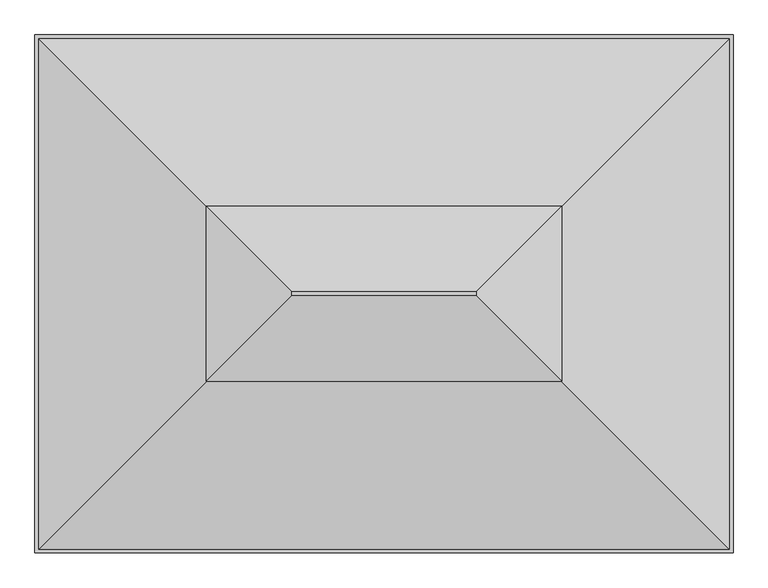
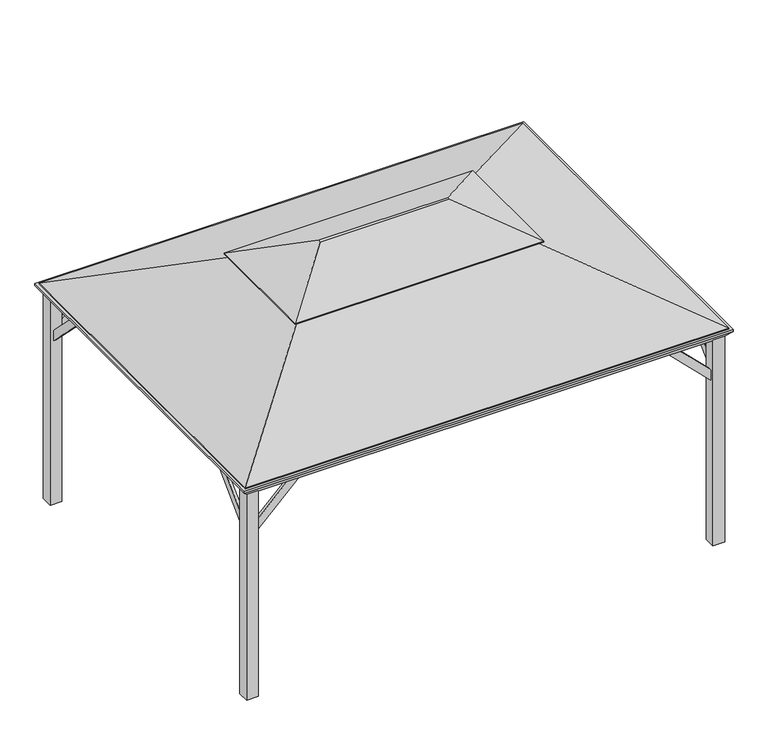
"""IFC4 building model written with IfcOpenShell, lengths in millimetres: proxy geometry."""

from ifc_helpers import new_model, si_unit, frame, origin, place, context, project, spatial, polyline, outline, extrude, faceted_brep, source, transform, mapped, element, save


def generic_models_1c49636c(model_context):
    return source(origin(), model_context, "Body", "SolidModel", [
        extrude(outline(polyline([(1670.2369265, -2197.1), (2082.8, -1784.5369265), (2082.8, -1892.3), (1778.0, -2197.1), (1670.2369265, -2197.1)])), frame((0.0, -1670.05, 0.0), z_axis=(0.0, 1.0, 0.0), x_axis=(0.0, 0.0, 1.0)), (0.0, 0.0, 1.0), 25.4),
        extrude(outline(polyline([(1670.2369265, 2197.1), (1778.0, 2197.1), (2082.8, 1892.3), (2082.8, 1784.5369265), (1670.2369265, 2197.1)])), frame((0.0, -1670.05, 0.0), z_axis=(0.0, 1.0, 0.0), x_axis=(0.0, 0.0, 1.0)), (0.0, 0.0, 1.0), 25.4),
        extrude(outline(polyline([(1670.2369265, -2197.1), (2082.8, -1784.5369265), (2082.8, -1892.3), (1778.0, -2197.1), (1670.2369265, -2197.1)])), frame((0.0, 1644.65, 0.0), z_axis=(0.0, 1.0, 0.0), x_axis=(0.0, 0.0, 1.0)), (0.0, 0.0, 1.0), 25.4),
        extrude(outline(polyline([(1670.2369265, 2197.1), (1778.0, 2197.1), (2082.8, 1892.3), (2082.8, 1784.5369265), (1670.2369265, 2197.1)])), frame((0.0, 1644.65, 0.0), z_axis=(0.0, 1.0, 0.0), x_axis=(0.0, 0.0, 1.0)), (0.0, 0.0, 1.0), 25.4),
        extrude(outline(polyline([(1587.5, 1670.2369265), (1174.9369265, 2082.8), (1282.7, 2082.8), (1587.5, 1778.0), (1587.5, 1670.2369265)])), frame((2254.25, 0.0, 0.0), z_axis=(1.0, 0.0, 0.0), x_axis=(0.0, 1.0, 0.0)), (0.0, 0.0, 1.0), 25.4),
        extrude(outline(polyline([(-1587.5, 1670.2369265), (-1587.5, 1778.0), (-1282.7, 2082.8), (-1174.9369265, 2082.8), (-1587.5, 1670.2369265)])), frame((2254.25, 0.0, 0.0), z_axis=(1.0, 0.0, 0.0), x_axis=(0.0, 1.0, 0.0)), (0.0, 0.0, 1.0), 25.4),
        extrude(outline(polyline([(1587.5, 1670.2369265), (1174.9369265, 2082.8), (1282.7, 2082.8), (1587.5, 1778.0), (1587.5, 1670.2369265)])), frame((-2279.65, 0.0, 0.0), z_axis=(1.0, 0.0, 0.0), x_axis=(0.0, 1.0, 0.0)), (0.0, 0.0, 1.0), 25.4),
        extrude(outline(polyline([(-1587.5, 1670.2369265), (-1587.5, 1778.0), (-1282.7, 2082.8), (-1174.9369265, 2082.8), (-1587.5, 1670.2369265)])), frame((-2279.65, 0.0, 0.0), z_axis=(1.0, 0.0, 0.0), x_axis=(0.0, 1.0, 0.0)), (0.0, 0.0, 1.0), 25.4),
        faceted_brep([(2362.2, -1752.6, 2184.4), (2362.2, 1752.6, 2184.4), (-2362.2, 1752.6, 2184.4), (-2362.2, -1752.6, 2184.4), (2197.1, 1587.5, 2184.4), (2254.25, 1587.5, 2184.4), (2254.25, -1587.5, 2184.4), (2197.1, -1587.5, 2184.4), (2197.1, -1644.65, 2184.4), (-2197.1, -1644.65, 2184.4), (-2197.1, -1587.5, 2184.4), (-2254.25, -1587.5, 2184.4), (-2254.25, 1587.5, 2184.4), (-2197.1, 1587.5, 2184.4), (-2197.1, 1644.65, 2184.4), (2197.1, 1644.65, 2184.4), (2197.1, 1587.5, 0.0), (2197.1, 1701.8, 0.0), (2311.4, 1701.8, 0.0), (2311.4, 1587.5, 0.0), (2311.4, 1587.5, 2105.3136364), (2292.35, 1587.5, 2082.8), (2254.25, 1587.5, 2082.8), (2311.4, 1701.8, 2105.3136364), (2197.1, 1701.8, 2105.3136364), (2197.1, 1644.65, 2082.8), (2197.1, 1682.75, 2082.8), (2292.35, -1587.5, 2082.8), (2254.25, -1587.5, 2082.8), (-2197.1, 1644.65, 2082.8), (-2197.1, 1682.75, 2082.8), (2197.1, -1644.65, 2082.8), (2197.1, -1682.75, 2082.8), (-2197.1, -1682.75, 2082.8), (-2197.1, -1644.65, 2082.8), (-2254.25, -1587.5, 2082.8), (-2292.35, -1587.5, 2082.8), (-2292.35, 1587.5, 2082.8), (-2254.25, 1587.5, 2082.8), (2362.2, 1752.6, 2165.35), (2362.2, -1752.6, 2165.35), (-2362.2, -1752.6, 2165.35), (-2362.2, 1752.6, 2165.35), (2311.4, -1587.5, 0.0), (2311.4, -1701.8, 0.0), (2197.1, -1701.8, 0.0), (2197.1, -1587.5, 0.0), (2311.4, -1587.5, 2105.3136364), (2197.1, -1701.8, 2105.3136364), (2311.4, -1701.8, 2105.3136364), (-2197.1, -1587.5, 0.0), (-2197.1, -1701.8, 0.0), (-2311.4, -1701.8, 0.0), (-2311.4, -1587.5, 0.0), (-2311.4, -1587.5, 2105.3136364), (-2311.4, -1701.8, 2105.3136364), (-2197.1, -1701.8, 2105.3136364), (-2311.4, 1587.5, 0.0), (-2311.4, 1701.8, 0.0), (-2197.1, 1701.8, 0.0), (-2197.1, 1587.5, 0.0), (-2311.4, 1587.5, 2105.3136364), (-2197.1, 1701.8, 2105.3136364), (-2311.4, 1701.8, 2105.3136364)], [[[0, 1, 2, 3], [4, 5, 6, 7, 8, 9, 10, 11, 12, 13, 14, 15]], [[16, 17, 18, 19]], [[16, 19, 20, 21, 22, 5, 4]], [[19, 18, 23, 20]], [[18, 17, 24, 23]], [[17, 16, 4, 15, 25, 26, 24]], [[22, 21, 27, 28]], [[26, 25, 29, 30]], [[31, 32, 33, 34]], [[35, 36, 37, 38]], [[25, 15, 14, 29]], [[39, 1, 0, 40]], [[40, 0, 3, 41]], [[41, 3, 2, 42]], [[1, 39, 42, 2]], [[43, 44, 45, 46]], [[43, 46, 7, 6, 28, 27, 47]], [[46, 45, 48, 32, 31, 8, 7]], [[45, 44, 49, 48]], [[44, 43, 47, 49]], [[50, 51, 52, 53]], [[50, 53, 54, 36, 35, 11, 10]], [[53, 52, 55, 54]], [[52, 51, 56, 55]], [[51, 50, 10, 9, 34, 33, 56]], [[57, 58, 59, 60]], [[57, 60, 13, 12, 38, 37, 61]], [[60, 59, 62, 30, 29, 14, 13]], [[59, 58, 63, 62]], [[58, 57, 61, 63]], [[5, 22, 28, 6]], [[8, 31, 34, 9]], [[11, 35, 38, 12]], [[39, 40, 49, 47, 27, 21, 20, 23]], [[40, 41, 55, 56, 33, 32, 48, 49]], [[41, 42, 63, 61, 37, 36, 54, 55]], [[42, 39, 23, 24, 26, 30, 62, 63]]]),
        faceted_brep([(623.5641406, 13.9641406, 3073.4), (-623.5641406, 13.9641406, 3073.4), (-623.5641406, -13.9641406, 3073.4), (623.5641406, -13.9641406, 3073.4), (-1201.9221406, 592.3221406, 2794.0), (-1201.9221406, -592.3221406, 2794.0), (1201.9221406, -592.3221406, 2794.0), (1201.9221406, 592.3221406, 2794.0), (1201.9221406, 592.3221406, 2781.3), (1201.9221406, -592.3221406, 2781.3), (-1201.9221406, -592.3221406, 2781.3), (-1201.9221406, 592.3221406, 2781.3), (623.5641406, 13.9641406, 3060.7), (623.5641406, -13.9641406, 3060.7), (-623.5641406, -13.9641406, 3060.7), (-623.5641406, 13.9641406, 3060.7)], [[[0, 1, 2, 3]], [[2, 1, 4, 5]], [[0, 3, 6, 7]], [[8, 7, 6, 9]], [[9, 6, 5, 10]], [[10, 5, 4, 11]], [[7, 8, 11, 4]], [[12, 13, 14, 15]], [[15, 14, 10, 11]], [[13, 12, 8, 9]], [[1, 0, 7, 4]], [[3, 2, 5, 6]], [[12, 15, 11, 8]], [[14, 13, 9, 10]]]),
        faceted_brep([(-2336.7941406, 1727.1941406, 2197.1), (-1074.9221406, 465.3221406, 2806.7), (1074.9221406, 465.3221406, 2806.7), (2336.7941406, 1727.1941406, 2197.1), (-2336.7941406, -1727.1941406, 2197.1), (-1074.9221406, -465.3221406, 2806.7), (2336.7941406, -1727.1941406, 2197.1), (1074.9221406, -465.3221406, 2806.7), (2336.7941406, 1727.1941406, 2184.4), (2336.7941406, -1727.1941406, 2184.4), (-2336.7941406, -1727.1941406, 2184.4), (-2336.7941406, 1727.1941406, 2184.4), (1074.9221406, 465.3221406, 2794.0), (-1074.9221406, 465.3221406, 2794.0), (-1074.9221406, -465.3221406, 2794.0), (1074.9221406, -465.3221406, 2794.0)], [[[0, 1, 2, 3]], [[1, 0, 4, 5]], [[5, 4, 6, 7]], [[3, 2, 7, 6]], [[8, 3, 6, 9]], [[9, 6, 4, 10]], [[10, 4, 0, 11]], [[3, 8, 11, 0]], [[8, 12, 13, 11]], [[11, 13, 14, 10]], [[10, 14, 15, 9]], [[12, 8, 9, 15]], [[7, 2, 12, 15]], [[5, 7, 15, 14]], [[1, 5, 14, 13]], [[2, 1, 13, 12]]]),
    ])


if __name__ == "__main__":
    model = new_model("IFC4")
    model_context = context("Model", 3, world=origin())
    ifc_project = project(units=[si_unit("LENGTHUNIT", "METRE", prefix="MILLI")], contexts=[model_context])
    site = spatial("IfcSite", under=ifc_project)
    building = spatial("IfcBuilding", under=site)
    placement = place(None, origin())
    generic_models_shape = generic_models_1c49636c(model_context)
    element("IfcBuildingElementProxy", 1, Name="Gazebo : 15'-6\" x 11'-6\" (Braces)", ObjectType="Gazebo : 15'-6\" x 11'-6\" (Braces)", at=placement, inside=building, context=model_context, shape_type="MappedRepresentation", body=[
        mapped(generic_models_shape, transform((0.0, 0.0, 0.0), x_axis=(1.0, 0.0, 0.0), y_axis=(0.0, 1.0, 0.0), z_axis=(0.0, 0.0, 1.0))),
    ])
    save(model, "model.ifc")
